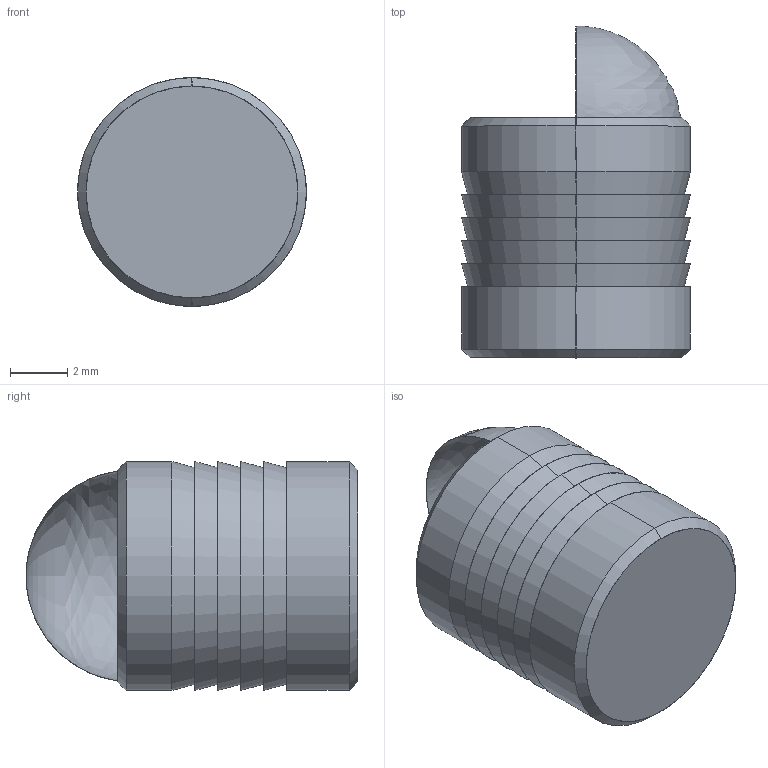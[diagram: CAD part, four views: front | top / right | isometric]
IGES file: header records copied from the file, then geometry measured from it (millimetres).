
Start section: SolidWorks IGES file using analytic representation for surfaces
Global section: file name: C:\Users\IanO\Desktop\P0190_v2\P0190_v2_20230321_IGES\P0190.080-ZP-BS.igs; native system: SolidWorks 2019; preprocessor: SolidWorks 2019; author: IanO; date: 231219.161102; units: millimetre
Bounding box: 8 x 11.6 x 8 mm (x, y, z)
Surface area: 542.3 mm2 (no closed solid volume)
Topology: 0 solids, 0 shells, 28 faces, 440 edges, 437 vertices
Faces by surface type: revolution 22, bspline 6
